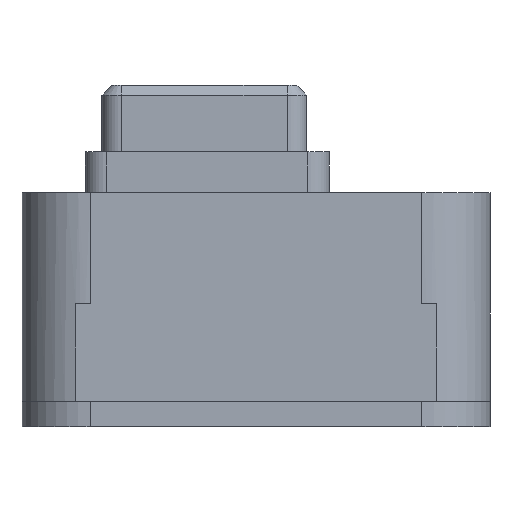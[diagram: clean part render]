
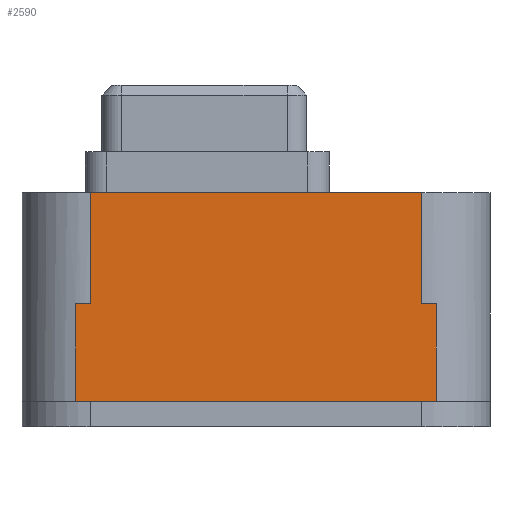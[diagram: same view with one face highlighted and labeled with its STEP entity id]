
A CAD part, left-side view. The second image highlights one B-rep face of the part: STEP entity #2590.
In plain terms, the highlighted planar face has unit normal (-1, 0, 0).
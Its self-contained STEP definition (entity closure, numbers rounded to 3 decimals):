
#132 = PLANE('',#133);
#133 = AXIS2_PLACEMENT_3D('',#134,#135,#136);
#134 = CARTESIAN_POINT('',(0.,0.,2.6));
#135 = DIRECTION('',(0.,0.,1.));
#136 = DIRECTION('',(1.,0.,-0.));
#160 = CYLINDRICAL_SURFACE('',#161,7.);
#161 = AXIS2_PLACEMENT_3D('',#162,#163,#164);
#162 = CARTESIAN_POINT('',(-20.,-17.,2.6));
#163 = DIRECTION('',(0.,0.,1.));
#164 = DIRECTION('',(0.,-1.,0.));
#188 = PLANE('',#189);
#189 = AXIS2_PLACEMENT_3D('',#190,#191,#192);
#190 = CARTESIAN_POINT('',(0.,0.,24.));
#191 = DIRECTION('',(0.,0.,1.));
#192 = DIRECTION('',(1.,0.,-0.));
#669 = CYLINDRICAL_SURFACE('',#670,7.);
#670 = AXIS2_PLACEMENT_3D('',#671,#672,#673);
#671 = CARTESIAN_POINT('',(-20.,17.,2.6));
#672 = DIRECTION('',(0.,0.,1.));
#673 = DIRECTION('',(-0.,1.,0.));
#682 = VERTEX_POINT('',#683);
#683 = CARTESIAN_POINT('',(-27.,18.5,2.6));
#697 = PLANE('',#698);
#698 = AXIS2_PLACEMENT_3D('',#699,#700,#701);
#699 = CARTESIAN_POINT('',(-27.,18.5,2.6));
#700 = DIRECTION('',(0.,1.,0.));
#701 = DIRECTION('',(0.,0.,1.));
#709 = EDGE_CURVE('',#710,#682,#712,.T.);
#710 = VERTEX_POINT('',#711);
#711 = CARTESIAN_POINT('',(-27.,-18.5,2.6));
#712 = SURFACE_CURVE('',#713,(#717,#724),.PCURVE_S1.);
#713 = LINE('',#714,#715);
#714 = CARTESIAN_POINT('',(-27.,-18.5,2.6));
#715 = VECTOR('',#716,1.);
#716 = DIRECTION('',(0.,1.,0.));
#717 = PCURVE('',#132,#718);
#718 = DEFINITIONAL_REPRESENTATION('',(#719),#723);
#719 = LINE('',#720,#721);
#720 = CARTESIAN_POINT('',(-27.,-18.5));
#721 = VECTOR('',#722,1.);
#722 = DIRECTION('',(0.,1.));
#723 = ( GEOMETRIC_REPRESENTATION_CONTEXT(2) 
PARAMETRIC_REPRESENTATION_CONTEXT() REPRESENTATION_CONTEXT('2D SPACE',''
  ) );
#724 = PCURVE('',#725,#730);
#725 = PLANE('',#726);
#726 = AXIS2_PLACEMENT_3D('',#727,#728,#729);
#727 = CARTESIAN_POINT('',(-27.,24.,2.6));
#728 = DIRECTION('',(1.,0.,-0.));
#729 = DIRECTION('',(0.,-1.,0.));
#730 = DEFINITIONAL_REPRESENTATION('',(#731),#735);
#731 = LINE('',#732,#733);
#732 = CARTESIAN_POINT('',(42.5,0.));
#733 = VECTOR('',#734,1.);
#734 = DIRECTION('',(-1.,0.));
#735 = ( GEOMETRIC_REPRESENTATION_CONTEXT(2) 
PARAMETRIC_REPRESENTATION_CONTEXT() REPRESENTATION_CONTEXT('2D SPACE',''
  ) );
#751 = PLANE('',#752);
#752 = AXIS2_PLACEMENT_3D('',#753,#754,#755);
#753 = CARTESIAN_POINT('',(-27.,-18.5,2.6));
#754 = DIRECTION('',(0.,1.,0.));
#755 = DIRECTION('',(0.,0.,1.));
#1575 = VERTEX_POINT('',#1576);
#1576 = CARTESIAN_POINT('',(-27.,-17.,12.6));
#1591 = PLANE('',#1592);
#1592 = AXIS2_PLACEMENT_3D('',#1593,#1594,#1595);
#1593 = CARTESIAN_POINT('',(-27.,-18.5,12.6));
#1594 = DIRECTION('',(0.,0.,1.));
#1595 = DIRECTION('',(1.,0.,0.));
#1603 = EDGE_CURVE('',#1575,#1604,#1606,.T.);
#1604 = VERTEX_POINT('',#1605);
#1605 = CARTESIAN_POINT('',(-27.,-17.,24.));
#1606 = SURFACE_CURVE('',#1607,(#1611,#1618),.PCURVE_S1.);
#1607 = LINE('',#1608,#1609);
#1608 = CARTESIAN_POINT('',(-27.,-17.,2.6));
#1609 = VECTOR('',#1610,1.);
#1610 = DIRECTION('',(0.,0.,1.));
#1611 = PCURVE('',#160,#1612);
#1612 = DEFINITIONAL_REPRESENTATION('',(#1613),#1617);
#1613 = LINE('',#1614,#1615);
#1614 = CARTESIAN_POINT('',(-1.571,0.));
#1615 = VECTOR('',#1616,1.);
#1616 = DIRECTION('',(-0.,1.));
#1617 = ( GEOMETRIC_REPRESENTATION_CONTEXT(2) 
PARAMETRIC_REPRESENTATION_CONTEXT() REPRESENTATION_CONTEXT('2D SPACE',''
  ) );
#1618 = PCURVE('',#725,#1619);
#1619 = DEFINITIONAL_REPRESENTATION('',(#1620),#1624);
#1620 = LINE('',#1621,#1622);
#1621 = CARTESIAN_POINT('',(41.,0.));
#1622 = VECTOR('',#1623,1.);
#1623 = DIRECTION('',(0.,-1.));
#1624 = ( GEOMETRIC_REPRESENTATION_CONTEXT(2) 
PARAMETRIC_REPRESENTATION_CONTEXT() REPRESENTATION_CONTEXT('2D SPACE',''
  ) );
#1899 = VERTEX_POINT('',#1900);
#1900 = CARTESIAN_POINT('',(-27.,17.,24.));
#1922 = EDGE_CURVE('',#1899,#1604,#1923,.T.);
#1923 = SURFACE_CURVE('',#1924,(#1928,#1935),.PCURVE_S1.);
#1924 = LINE('',#1925,#1926);
#1925 = CARTESIAN_POINT('',(-27.,24.,24.));
#1926 = VECTOR('',#1927,1.);
#1927 = DIRECTION('',(0.,-1.,0.));
#1928 = PCURVE('',#188,#1929);
#1929 = DEFINITIONAL_REPRESENTATION('',(#1930),#1934);
#1930 = LINE('',#1931,#1932);
#1931 = CARTESIAN_POINT('',(-27.,24.));
#1932 = VECTOR('',#1933,1.);
#1933 = DIRECTION('',(0.,-1.));
#1934 = ( GEOMETRIC_REPRESENTATION_CONTEXT(2) 
PARAMETRIC_REPRESENTATION_CONTEXT() REPRESENTATION_CONTEXT('2D SPACE',''
  ) );
#1935 = PCURVE('',#725,#1936);
#1936 = DEFINITIONAL_REPRESENTATION('',(#1937),#1941);
#1937 = LINE('',#1938,#1939);
#1938 = CARTESIAN_POINT('',(0.,-21.4));
#1939 = VECTOR('',#1940,1.);
#1940 = DIRECTION('',(1.,0.));
#1941 = ( GEOMETRIC_REPRESENTATION_CONTEXT(2) 
PARAMETRIC_REPRESENTATION_CONTEXT() REPRESENTATION_CONTEXT('2D SPACE',''
  ) );
#2546 = EDGE_CURVE('',#710,#2547,#2549,.T.);
#2547 = VERTEX_POINT('',#2548);
#2548 = CARTESIAN_POINT('',(-27.,-18.5,12.6));
#2549 = SURFACE_CURVE('',#2550,(#2554,#2561),.PCURVE_S1.);
#2550 = LINE('',#2551,#2552);
#2551 = CARTESIAN_POINT('',(-27.,-18.5,2.6));
#2552 = VECTOR('',#2553,1.);
#2553 = DIRECTION('',(0.,0.,1.));
#2554 = PCURVE('',#751,#2555);
#2555 = DEFINITIONAL_REPRESENTATION('',(#2556),#2560);
#2556 = LINE('',#2557,#2558);
#2557 = CARTESIAN_POINT('',(0.,0.));
#2558 = VECTOR('',#2559,1.);
#2559 = DIRECTION('',(1.,0.));
#2560 = ( GEOMETRIC_REPRESENTATION_CONTEXT(2) 
PARAMETRIC_REPRESENTATION_CONTEXT() REPRESENTATION_CONTEXT('2D SPACE',''
  ) );
#2561 = PCURVE('',#725,#2562);
#2562 = DEFINITIONAL_REPRESENTATION('',(#2563),#2567);
#2563 = LINE('',#2564,#2565);
#2564 = CARTESIAN_POINT('',(42.5,0.));
#2565 = VECTOR('',#2566,1.);
#2566 = DIRECTION('',(0.,-1.));
#2567 = ( GEOMETRIC_REPRESENTATION_CONTEXT(2) 
PARAMETRIC_REPRESENTATION_CONTEXT() REPRESENTATION_CONTEXT('2D SPACE',''
  ) );
#2590 = ADVANCED_FACE('',(#2591),#725,.F.);
#2591 = FACE_BOUND('',#2592,.F.);
#2592 = EDGE_LOOP('',(#2593,#2594,#2617,#2645,#2666,#2667,#2668,#2689));
#2593 = ORIENTED_EDGE('',*,*,#709,.T.);
#2594 = ORIENTED_EDGE('',*,*,#2595,.T.);
#2595 = EDGE_CURVE('',#682,#2596,#2598,.T.);
#2596 = VERTEX_POINT('',#2597);
#2597 = CARTESIAN_POINT('',(-27.,18.5,12.6));
#2598 = SURFACE_CURVE('',#2599,(#2603,#2610),.PCURVE_S1.);
#2599 = LINE('',#2600,#2601);
#2600 = CARTESIAN_POINT('',(-27.,18.5,2.6));
#2601 = VECTOR('',#2602,1.);
#2602 = DIRECTION('',(0.,0.,1.));
#2603 = PCURVE('',#725,#2604);
#2604 = DEFINITIONAL_REPRESENTATION('',(#2605),#2609);
#2605 = LINE('',#2606,#2607);
#2606 = CARTESIAN_POINT('',(5.5,0.));
#2607 = VECTOR('',#2608,1.);
#2608 = DIRECTION('',(0.,-1.));
#2609 = ( GEOMETRIC_REPRESENTATION_CONTEXT(2) 
PARAMETRIC_REPRESENTATION_CONTEXT() REPRESENTATION_CONTEXT('2D SPACE',''
  ) );
#2610 = PCURVE('',#697,#2611);
#2611 = DEFINITIONAL_REPRESENTATION('',(#2612),#2616);
#2612 = LINE('',#2613,#2614);
#2613 = CARTESIAN_POINT('',(0.,0.));
#2614 = VECTOR('',#2615,1.);
#2615 = DIRECTION('',(1.,0.));
#2616 = ( GEOMETRIC_REPRESENTATION_CONTEXT(2) 
PARAMETRIC_REPRESENTATION_CONTEXT() REPRESENTATION_CONTEXT('2D SPACE',''
  ) );
#2617 = ORIENTED_EDGE('',*,*,#2618,.F.);
#2618 = EDGE_CURVE('',#2619,#2596,#2621,.T.);
#2619 = VERTEX_POINT('',#2620);
#2620 = CARTESIAN_POINT('',(-27.,17.,12.6));
#2621 = SURFACE_CURVE('',#2622,(#2626,#2633),.PCURVE_S1.);
#2622 = LINE('',#2623,#2624);
#2623 = CARTESIAN_POINT('',(-27.,14.5,12.6));
#2624 = VECTOR('',#2625,1.);
#2625 = DIRECTION('',(0.,1.,0.));
#2626 = PCURVE('',#725,#2627);
#2627 = DEFINITIONAL_REPRESENTATION('',(#2628),#2632);
#2628 = LINE('',#2629,#2630);
#2629 = CARTESIAN_POINT('',(9.5,-10.));
#2630 = VECTOR('',#2631,1.);
#2631 = DIRECTION('',(-1.,0.));
#2632 = ( GEOMETRIC_REPRESENTATION_CONTEXT(2) 
PARAMETRIC_REPRESENTATION_CONTEXT() REPRESENTATION_CONTEXT('2D SPACE',''
  ) );
#2633 = PCURVE('',#2634,#2639);
#2634 = PLANE('',#2635);
#2635 = AXIS2_PLACEMENT_3D('',#2636,#2637,#2638);
#2636 = CARTESIAN_POINT('',(-27.,14.5,12.6));
#2637 = DIRECTION('',(0.,0.,1.));
#2638 = DIRECTION('',(1.,0.,0.));
#2639 = DEFINITIONAL_REPRESENTATION('',(#2640),#2644);
#2640 = LINE('',#2641,#2642);
#2641 = CARTESIAN_POINT('',(0.,0.));
#2642 = VECTOR('',#2643,1.);
#2643 = DIRECTION('',(0.,1.));
#2644 = ( GEOMETRIC_REPRESENTATION_CONTEXT(2) 
PARAMETRIC_REPRESENTATION_CONTEXT() REPRESENTATION_CONTEXT('2D SPACE',''
  ) );
#2645 = ORIENTED_EDGE('',*,*,#2646,.T.);
#2646 = EDGE_CURVE('',#2619,#1899,#2647,.T.);
#2647 = SURFACE_CURVE('',#2648,(#2652,#2659),.PCURVE_S1.);
#2648 = LINE('',#2649,#2650);
#2649 = CARTESIAN_POINT('',(-27.,17.,2.6));
#2650 = VECTOR('',#2651,1.);
#2651 = DIRECTION('',(0.,0.,1.));
#2652 = PCURVE('',#725,#2653);
#2653 = DEFINITIONAL_REPRESENTATION('',(#2654),#2658);
#2654 = LINE('',#2655,#2656);
#2655 = CARTESIAN_POINT('',(7.,0.));
#2656 = VECTOR('',#2657,1.);
#2657 = DIRECTION('',(0.,-1.));
#2658 = ( GEOMETRIC_REPRESENTATION_CONTEXT(2) 
PARAMETRIC_REPRESENTATION_CONTEXT() REPRESENTATION_CONTEXT('2D SPACE',''
  ) );
#2659 = PCURVE('',#669,#2660);
#2660 = DEFINITIONAL_REPRESENTATION('',(#2661),#2665);
#2661 = LINE('',#2662,#2663);
#2662 = CARTESIAN_POINT('',(1.571,0.));
#2663 = VECTOR('',#2664,1.);
#2664 = DIRECTION('',(0.,1.));
#2665 = ( GEOMETRIC_REPRESENTATION_CONTEXT(2) 
PARAMETRIC_REPRESENTATION_CONTEXT() REPRESENTATION_CONTEXT('2D SPACE',''
  ) );
#2666 = ORIENTED_EDGE('',*,*,#1922,.T.);
#2667 = ORIENTED_EDGE('',*,*,#1603,.F.);
#2668 = ORIENTED_EDGE('',*,*,#2669,.F.);
#2669 = EDGE_CURVE('',#2547,#1575,#2670,.T.);
#2670 = SURFACE_CURVE('',#2671,(#2675,#2682),.PCURVE_S1.);
#2671 = LINE('',#2672,#2673);
#2672 = CARTESIAN_POINT('',(-27.,-18.5,12.6));
#2673 = VECTOR('',#2674,1.);
#2674 = DIRECTION('',(0.,1.,0.));
#2675 = PCURVE('',#725,#2676);
#2676 = DEFINITIONAL_REPRESENTATION('',(#2677),#2681);
#2677 = LINE('',#2678,#2679);
#2678 = CARTESIAN_POINT('',(42.5,-10.));
#2679 = VECTOR('',#2680,1.);
#2680 = DIRECTION('',(-1.,0.));
#2681 = ( GEOMETRIC_REPRESENTATION_CONTEXT(2) 
PARAMETRIC_REPRESENTATION_CONTEXT() REPRESENTATION_CONTEXT('2D SPACE',''
  ) );
#2682 = PCURVE('',#1591,#2683);
#2683 = DEFINITIONAL_REPRESENTATION('',(#2684),#2688);
#2684 = LINE('',#2685,#2686);
#2685 = CARTESIAN_POINT('',(0.,0.));
#2686 = VECTOR('',#2687,1.);
#2687 = DIRECTION('',(0.,1.));
#2688 = ( GEOMETRIC_REPRESENTATION_CONTEXT(2) 
PARAMETRIC_REPRESENTATION_CONTEXT() REPRESENTATION_CONTEXT('2D SPACE',''
  ) );
#2689 = ORIENTED_EDGE('',*,*,#2546,.F.);
